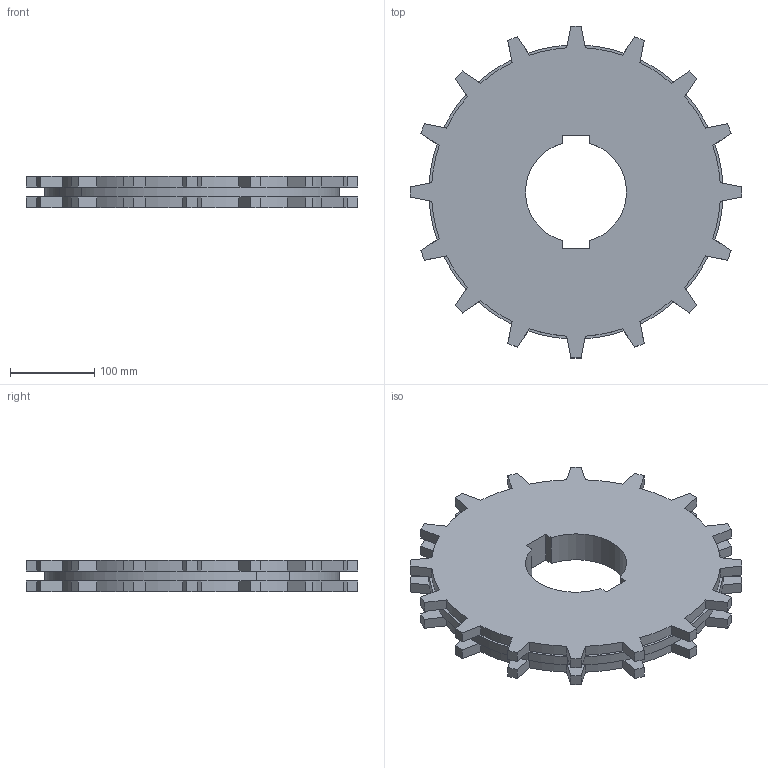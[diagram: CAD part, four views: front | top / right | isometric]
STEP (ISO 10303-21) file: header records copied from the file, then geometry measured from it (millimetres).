
FILE_DESCRIPTION((''),'2;1');
FILE_NAME('S10000_16T_RND','2013-07-29T',('rklein'),('INTRALOX'),'PRO/ENGINEER BY PARAMETRIC TECHNOLOGY CORPORATION, 2009460','PRO/ENGINEER BY PARAMETRIC TECHNOLOGY CORPORATION, 2009460','');
FILE_SCHEMA(('CONFIG_CONTROL_DESIGN'));
Length unit declared in the file: inch
Products named in the file (1): S10000_16T_RND
Bounding box: 394.03 x 394.03 x 37.59 mm (x, y, z)
Volume: 3249588.2 mm3; surface area: 265707.8 mm2
Topology: 1 solids, 1 shells, 204 faces, 538 edges, 336 vertices
Faces by surface type: plane 168, cylinder 36
Entity records: 6254 total; most frequent: DIRECTION 1078, CARTESIAN_POINT 1078, ORIENTED_EDGE 1076, EDGE_CURVE 538, VECTOR 406, LINE 406, AXIS2_PLACEMENT_3D 336, VERTEX_POINT 336
